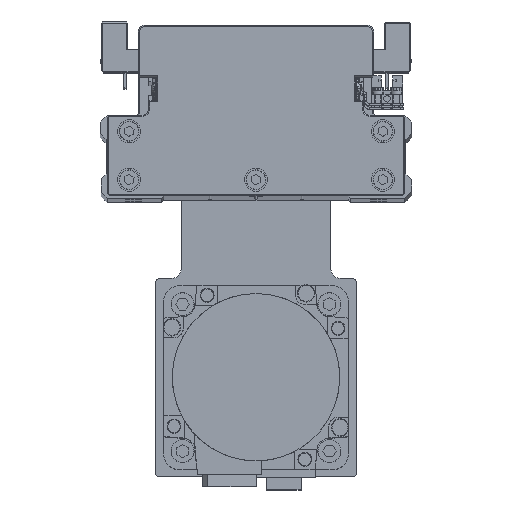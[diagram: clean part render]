
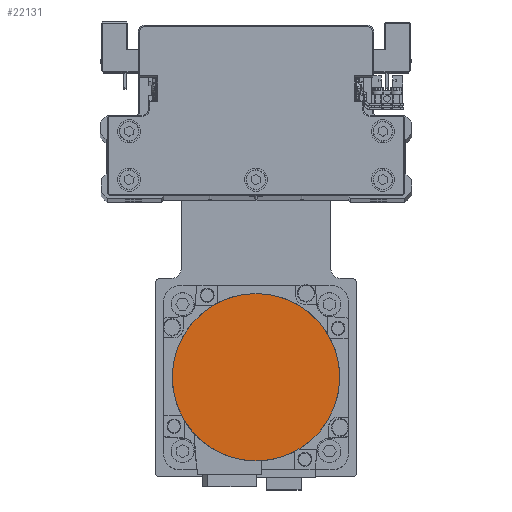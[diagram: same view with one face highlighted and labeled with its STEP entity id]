
A CAD part, top view. The second image highlights one B-rep face of the part: STEP entity #22131.
In plain terms, the highlighted planar face has unit normal (0, 0, 1) as drawn and (0, 0, -1) by its records, which use the part's own axes.
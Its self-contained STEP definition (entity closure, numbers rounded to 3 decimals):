
#336 = CIRCLE ( 'NONE', #23155, 36.3 ) ;
#1773 = DIRECTION ( 'NONE',  ( 1., 0., 0. ) ) ;
#2851 = CARTESIAN_POINT ( 'NONE',  ( 0., -36.3, -122.2 ) ) ;
#4212 = ORIENTED_EDGE ( 'NONE', *, *, #14177, .F. ) ;
#4844 = PLANE ( 'NONE',  #10062 ) ;
#5310 = DIRECTION ( 'NONE',  ( 0., 0., 1. ) ) ;
#5830 = DIRECTION ( 'NONE',  ( 0., 0., 1. ) ) ;
#10062 = AXIS2_PLACEMENT_3D ( 'NONE', #17307, #29736, #1773 ) ;
#10790 = EDGE_LOOP ( 'NONE', ( #4212, #39827 ) ) ;
#14177 = EDGE_CURVE ( 'NONE', #35987, #17044, #336, .T. ) ;
#15468 = CIRCLE ( 'NONE', #38219, 36.3 ) ;
#17044 = VERTEX_POINT ( 'NONE', #2851 ) ;
#17307 = CARTESIAN_POINT ( 'NONE',  ( 0., 0., -122.2 ) ) ;
#17781 = DIRECTION ( 'NONE',  ( 0., 1., 0. ) ) ;
#18288 = DIRECTION ( 'NONE',  ( 0., -1., 0. ) ) ;
#22131 = ADVANCED_FACE ( 'NONE', ( #32787 ), #4844, .F. ) ;
#23155 = AXIS2_PLACEMENT_3D ( 'NONE', #33244, #5310, #17781 ) ;
#24602 = CARTESIAN_POINT ( 'NONE',  ( 0., 36.3, -122.2 ) ) ;
#29736 = DIRECTION ( 'NONE',  ( 0., 0., 1. ) ) ;
#32787 = FACE_OUTER_BOUND ( 'NONE', #10790, .T. ) ;
#33244 = CARTESIAN_POINT ( 'NONE',  ( 0., 0., -122.2 ) ) ;
#33747 = CARTESIAN_POINT ( 'NONE',  ( 0., 0., -122.2 ) ) ;
#35960 = EDGE_CURVE ( 'NONE', #17044, #35987, #15468, .T. ) ;
#35987 = VERTEX_POINT ( 'NONE', #24602 ) ;
#38219 = AXIS2_PLACEMENT_3D ( 'NONE', #33747, #5830, #18288 ) ;
#39827 = ORIENTED_EDGE ( 'NONE', *, *, #35960, .F. ) ;
